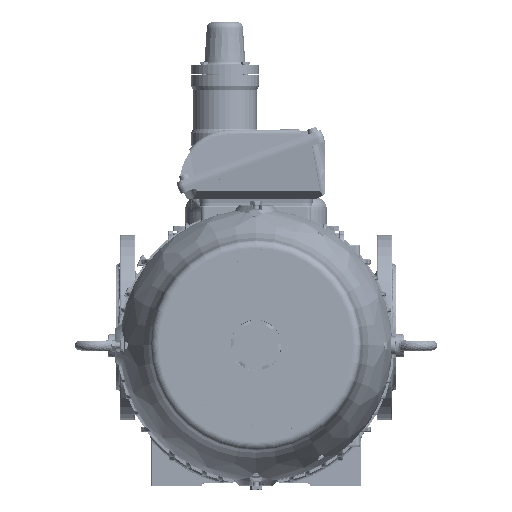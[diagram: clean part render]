
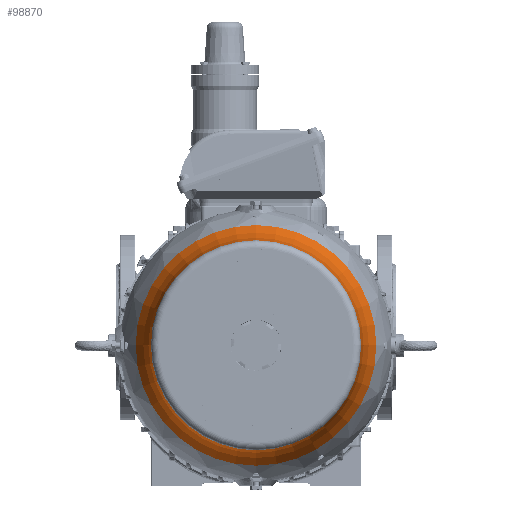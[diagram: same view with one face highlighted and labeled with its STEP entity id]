
A CAD part, top view. The second image highlights one B-rep face of the part: STEP entity #98870.
In plain terms, the highlighted toroidal (fillet/blend) face has major radius 264.661 mm and minor radius 130 mm.
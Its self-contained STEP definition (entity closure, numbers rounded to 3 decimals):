
#88=TOROIDAL_SURFACE('',#106706,264.661,130.);
#12461=FACE_OUTER_BOUND('',#18473,.T.);
#18473=EDGE_LOOP('',(#76934,#76935,#76936,#76937,#76938,#76939));
#38446=CIRCLE('',#106704,154.526);
#38447=CIRCLE('',#106705,154.526);
#38448=CIRCLE('',#106707,130.);
#38449=CIRCLE('',#106708,134.976);
#38450=CIRCLE('',#106709,134.976);
#45211=VERTEX_POINT('',#164573);
#45212=VERTEX_POINT('',#164577);
#45213=VERTEX_POINT('',#164689);
#45214=VERTEX_POINT('',#164691);
#56523=EDGE_CURVE('',#45211,#45212,#38446,.T.);
#56524=EDGE_CURVE('',#45212,#45211,#38447,.T.);
#56529=EDGE_CURVE('',#45211,#45213,#38448,.T.);
#56530=EDGE_CURVE('',#45213,#45214,#38449,.T.);
#56531=EDGE_CURVE('',#45214,#45213,#38450,.T.);
#76934=ORIENTED_EDGE('',*,*,#56524,.F.);
#76935=ORIENTED_EDGE('',*,*,#56523,.F.);
#76936=ORIENTED_EDGE('',*,*,#56529,.T.);
#76937=ORIENTED_EDGE('',*,*,#56530,.T.);
#76938=ORIENTED_EDGE('',*,*,#56531,.T.);
#76939=ORIENTED_EDGE('',*,*,#56529,.F.);
#98870=ADVANCED_FACE('',(#12461),#88,.F.);
#106704=AXIS2_PLACEMENT_3D('',#164578,#122873,#122874);
#106705=AXIS2_PLACEMENT_3D('',#164579,#122875,#122876);
#106706=AXIS2_PLACEMENT_3D('',#164688,#122877,#122878);
#106707=AXIS2_PLACEMENT_3D('',#164690,#122879,#122880);
#106708=AXIS2_PLACEMENT_3D('',#164692,#122881,#122882);
#106709=AXIS2_PLACEMENT_3D('',#164693,#122883,#122884);
#122873=DIRECTION('center_axis',(0.,0.,
-1.));
#122874=DIRECTION('ref_axis',(-1.,0.,0.));
#122875=DIRECTION('center_axis',(0.,0.,
-1.));
#122876=DIRECTION('ref_axis',(-1.,0.,0.));
#122877=DIRECTION('center_axis',(0.,0.,
-1.));
#122878=DIRECTION('ref_axis',(-1.,0.,0.));
#122879=DIRECTION('center_axis',(0.,1.,0.));
#122880=DIRECTION('ref_axis',(1.,0.,0.));
#122881=DIRECTION('center_axis',(0.,0.,
-1.));
#122882=DIRECTION('ref_axis',(-1.,0.,0.));
#122883=DIRECTION('center_axis',(0.,0.,
-1.));
#122884=DIRECTION('ref_axis',(-1.,0.,0.));
#164573=CARTESIAN_POINT('',(154.526,0.,642.164));
#164577=CARTESIAN_POINT('',(-154.526,0.,642.164));
#164578=CARTESIAN_POINT('Origin',(0.,0.,
642.164));
#164579=CARTESIAN_POINT('Origin',(0.,0.,
642.164));
#164688=CARTESIAN_POINT('Origin',(0.,0.,
711.231));
#164689=CARTESIAN_POINT('',(134.976,0.,702.195));
#164690=CARTESIAN_POINT('Origin',(264.661,0.,
711.231));
#164691=CARTESIAN_POINT('',(-134.976,0.,702.195));
#164692=CARTESIAN_POINT('Origin',(0.,0.,
702.195));
#164693=CARTESIAN_POINT('Origin',(0.,0.,
702.195));
